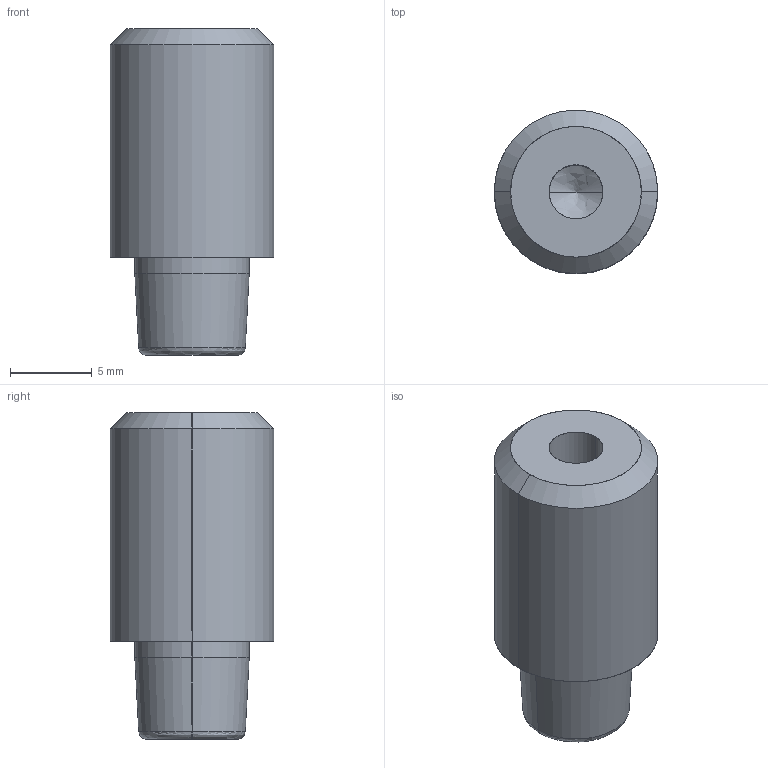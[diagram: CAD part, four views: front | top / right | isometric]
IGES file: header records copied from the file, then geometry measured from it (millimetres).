
Start section: SolidWorks IGES file using analytic representation for surfaces
Global section: file name: D:\Current\W1\ZTPN\ZTPN10-3\ZTPNP10-3.IGS; native system: SolidWorks 2017; preprocessor: SolidWorks 2017; author: Ravi Kalvai; date: 240604.094919; units: millimetre
Bounding box: 10 x 10 x 20 mm (x, y, z)
Surface area: 821.5 mm2 (no closed solid volume)
Topology: 0 solids, 0 shells, 17 faces, 216 edges, 214 vertices
Faces by surface type: revolution 12, bspline 5
